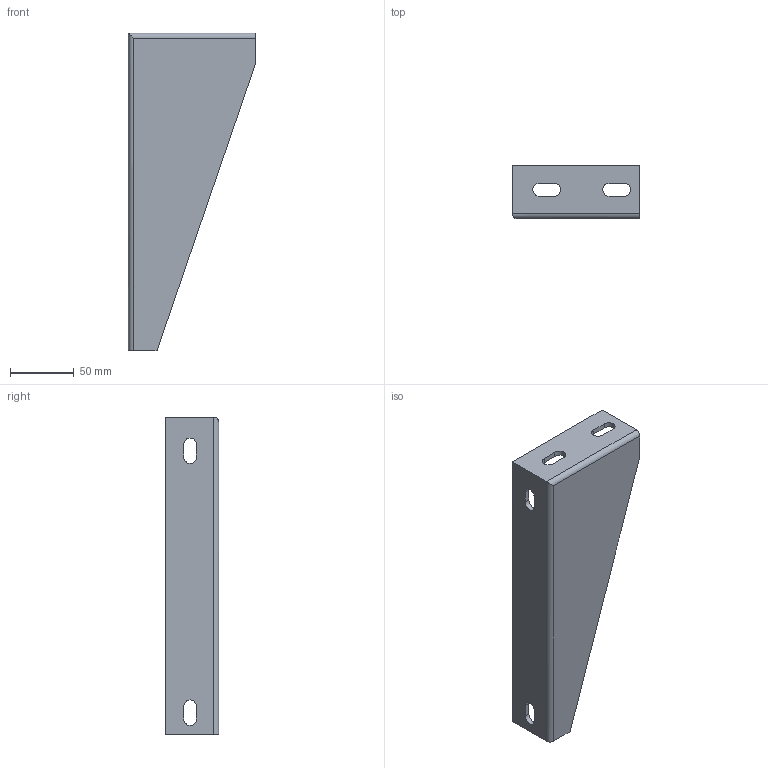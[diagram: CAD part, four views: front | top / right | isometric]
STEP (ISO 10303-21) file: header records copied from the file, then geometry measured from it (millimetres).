
FILE_DESCRIPTION((''),'2;1');
FILE_NAME('SUM250SN','2002-12-27T',('Lipro doo'),('Lipro d.o.o.'),'PRO/ENGINEER BY PARAMETRIC TECHNOLOGY CORPORATION, 2001150','PRO/ENGINEER BY PARAMETRIC TECHNOLOGY CORPORATION, 2001150','');
FILE_SCHEMA(('CONFIG_CONTROL_DESIGN'));
Length unit declared in the file: millimetre
Products named in the file (1): SUM250SN
Bounding box: 100 x 42 x 250 mm (x, y, z)
Volume: 113642.5 mm3; surface area: 60070.6 mm2
Topology: 1 solids, 1 shells, 30 faces, 82 edges, 54 vertices
Faces by surface type: plane 18, cylinder 12
Entity records: 1018 total; most frequent: CARTESIAN_POINT 184, ORIENTED_EDGE 164, DIRECTION 160, EDGE_CURVE 82, VECTOR 60, LINE 60, VERTEX_POINT 54, AXIS2_PLACEMENT_3D 50
